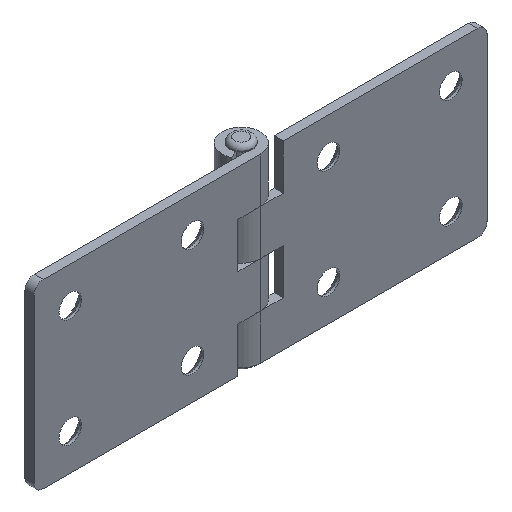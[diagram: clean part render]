
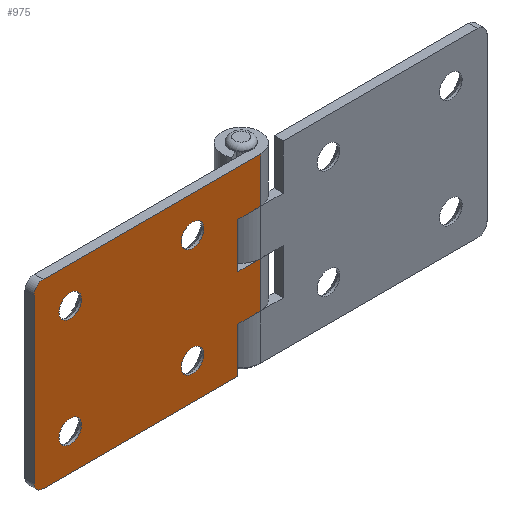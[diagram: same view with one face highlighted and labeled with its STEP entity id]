
A CAD part, isometric view. The second image highlights one B-rep face of the part: STEP entity #975.
In plain terms, the highlighted planar face has unit normal (0, -1, 0).
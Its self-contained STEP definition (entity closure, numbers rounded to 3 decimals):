
#56=FACE_BOUND('',#172,.T.);
#57=FACE_BOUND('',#173,.T.);
#58=FACE_BOUND('',#174,.T.);
#59=FACE_BOUND('',#175,.T.);
#106=FACE_OUTER_BOUND('',#171,.T.);
#171=EDGE_LOOP('',(#756,#757,#758,#759,#760,#761,#762,#763,#764,#765,#766,
#767));
#172=EDGE_LOOP('',(#768));
#173=EDGE_LOOP('',(#769));
#174=EDGE_LOOP('',(#770));
#175=EDGE_LOOP('',(#771));
#252=LINE('',#1456,#324);
#257=LINE('',#1468,#329);
#261=LINE('',#1477,#333);
#265=LINE('',#1494,#337);
#268=LINE('',#1498,#340);
#279=LINE('',#1535,#351);
#282=LINE('',#1543,#354);
#285=LINE('',#1551,#357);
#286=LINE('',#1553,#358);
#287=LINE('',#1554,#359);
#324=VECTOR('',#1148,5.);
#329=VECTOR('',#1157,10.);
#333=VECTOR('',#1163,5.);
#337=VECTOR('',#1177,5.);
#340=VECTOR('',#1182,10.);
#351=VECTOR('',#1221,10.);
#354=VECTOR('',#1230,43.);
#357=VECTOR('',#1239,48.);
#358=VECTOR('',#1242,10.);
#359=VECTOR('',#1243,36.);
#410=CIRCLE('',#1051,2.);
#411=CIRCLE('',#1054,2.);
#412=CIRCLE('',#1057,2.5);
#413=CIRCLE('',#1058,2.5);
#414=CIRCLE('',#1059,2.5);
#415=CIRCLE('',#1060,2.5);
#452=VERTEX_POINT('',#1452);
#454=VERTEX_POINT('',#1455);
#459=VERTEX_POINT('',#1467);
#462=VERTEX_POINT('',#1474);
#463=VERTEX_POINT('',#1476);
#470=VERTEX_POINT('',#1491);
#471=VERTEX_POINT('',#1493);
#483=VERTEX_POINT('',#1533);
#484=VERTEX_POINT('',#1537);
#485=VERTEX_POINT('',#1539);
#486=VERTEX_POINT('',#1545);
#487=VERTEX_POINT('',#1546);
#488=VERTEX_POINT('',#1555);
#489=VERTEX_POINT('',#1557);
#490=VERTEX_POINT('',#1559);
#491=VERTEX_POINT('',#1561);
#549=EDGE_CURVE('',#454,#452,#252,.T.);
#555=EDGE_CURVE('',#459,#454,#257,.T.);
#559=EDGE_CURVE('',#463,#462,#261,.T.);
#567=EDGE_CURVE('',#471,#470,#265,.T.);
#570=EDGE_CURVE('',#462,#471,#268,.T.);
#589=EDGE_CURVE('',#470,#483,#279,.T.);
#591=EDGE_CURVE('',#484,#485,#410,.T.);
#593=EDGE_CURVE('',#459,#484,#282,.T.);
#594=EDGE_CURVE('',#486,#487,#411,.T.);
#597=EDGE_CURVE('',#487,#483,#285,.T.);
#598=EDGE_CURVE('',#452,#463,#286,.T.);
#599=EDGE_CURVE('',#485,#486,#287,.T.);
#600=EDGE_CURVE('',#488,#488,#412,.T.);
#601=EDGE_CURVE('',#489,#489,#413,.T.);
#602=EDGE_CURVE('',#490,#490,#414,.T.);
#603=EDGE_CURVE('',#491,#491,#415,.T.);
#756=ORIENTED_EDGE('',*,*,#549,.T.);
#757=ORIENTED_EDGE('',*,*,#598,.T.);
#758=ORIENTED_EDGE('',*,*,#559,.T.);
#759=ORIENTED_EDGE('',*,*,#570,.T.);
#760=ORIENTED_EDGE('',*,*,#567,.T.);
#761=ORIENTED_EDGE('',*,*,#589,.T.);
#762=ORIENTED_EDGE('',*,*,#597,.F.);
#763=ORIENTED_EDGE('',*,*,#594,.F.);
#764=ORIENTED_EDGE('',*,*,#599,.F.);
#765=ORIENTED_EDGE('',*,*,#591,.F.);
#766=ORIENTED_EDGE('',*,*,#593,.F.);
#767=ORIENTED_EDGE('',*,*,#555,.T.);
#768=ORIENTED_EDGE('',*,*,#600,.T.);
#769=ORIENTED_EDGE('',*,*,#601,.T.);
#770=ORIENTED_EDGE('',*,*,#602,.T.);
#771=ORIENTED_EDGE('',*,*,#603,.T.);
#942=PLANE('',#1056);
#975=ADVANCED_FACE('',(#106,#56,#57,#58,#59),#942,.T.);
#1051=AXIS2_PLACEMENT_3D('',#1540,#1225,#1226);
#1054=AXIS2_PLACEMENT_3D('',#1547,#1233,#1234);
#1056=AXIS2_PLACEMENT_3D('',#1552,#1240,#1241);
#1057=AXIS2_PLACEMENT_3D('',#1556,#1244,#1245);
#1058=AXIS2_PLACEMENT_3D('',#1558,#1246,#1247);
#1059=AXIS2_PLACEMENT_3D('',#1560,#1248,#1249);
#1060=AXIS2_PLACEMENT_3D('',#1562,#1250,#1251);
#1148=DIRECTION('',(1.,0.,0.));
#1157=DIRECTION('',(0.,0.,1.));
#1163=DIRECTION('',(-1.,0.,0.));
#1177=DIRECTION('',(1.,0.,0.));
#1182=DIRECTION('',(0.,0.,1.));
#1221=DIRECTION('',(0.,0.,1.));
#1225=DIRECTION('center_axis',(0.,1.,0.));
#1226=DIRECTION('ref_axis',(-0.707,0.,-0.707));
#1230=DIRECTION('',(-1.,0.,0.));
#1233=DIRECTION('center_axis',(0.,1.,0.));
#1234=DIRECTION('ref_axis',(-0.707,0.,0.707));
#1239=DIRECTION('',(1.,0.,0.));
#1240=DIRECTION('center_axis',(0.,-1.,0.));
#1241=DIRECTION('ref_axis',(1.,0.,0.));
#1242=DIRECTION('',(0.,0.,1.));
#1243=DIRECTION('',(0.,0.,1.));
#1244=DIRECTION('center_axis',(0.,1.,0.));
#1245=DIRECTION('ref_axis',(1.,0.,0.));
#1246=DIRECTION('center_axis',(0.,1.,0.));
#1247=DIRECTION('ref_axis',(1.,0.,0.));
#1248=DIRECTION('center_axis',(0.,1.,0.));
#1249=DIRECTION('ref_axis',(1.,0.,0.));
#1250=DIRECTION('center_axis',(0.,1.,0.));
#1251=DIRECTION('ref_axis',(1.,0.,0.));
#1452=CARTESIAN_POINT('',(0.,0.,-10.));
#1455=CARTESIAN_POINT('',(-5.,0.,-10.));
#1456=CARTESIAN_POINT('',(-27.5,0.,-10.));
#1467=CARTESIAN_POINT('',(-5.,0.,-20.));
#1468=CARTESIAN_POINT('',(-5.,0.,-10.));
#1474=CARTESIAN_POINT('',(-5.,0.,0.));
#1476=CARTESIAN_POINT('',(0.,0.,0.));
#1477=CARTESIAN_POINT('',(-22.5,0.,0.));
#1491=CARTESIAN_POINT('',(0.,0.,10.));
#1493=CARTESIAN_POINT('',(-5.,0.,10.));
#1494=CARTESIAN_POINT('',(-27.5,0.,10.));
#1498=CARTESIAN_POINT('',(-5.,0.,0.));
#1533=CARTESIAN_POINT('',(0.,0.,20.));
#1535=CARTESIAN_POINT('',(0.,0.,0.));
#1537=CARTESIAN_POINT('',(-48.,0.,-20.));
#1539=CARTESIAN_POINT('',(-50.,0.,-18.));
#1540=CARTESIAN_POINT('Origin',(-48.,0.,-18.));
#1543=CARTESIAN_POINT('',(-50.,0.,-20.));
#1545=CARTESIAN_POINT('',(-50.,0.,18.));
#1546=CARTESIAN_POINT('',(-48.,0.,20.));
#1547=CARTESIAN_POINT('Origin',(-48.,0.,18.));
#1551=CARTESIAN_POINT('',(-50.,0.,20.));
#1552=CARTESIAN_POINT('Origin',(-50.,0.,0.));
#1553=CARTESIAN_POINT('',(0.,0.,0.));
#1554=CARTESIAN_POINT('',(-50.,0.,0.));
#1555=CARTESIAN_POINT('',(-44.5,0.,12.));
#1556=CARTESIAN_POINT('Origin',(-42.,0.,12.));
#1557=CARTESIAN_POINT('',(-17.5,0.,-12.));
#1558=CARTESIAN_POINT('Origin',(-15.,0.,-12.));
#1559=CARTESIAN_POINT('',(-44.5,0.,-12.));
#1560=CARTESIAN_POINT('Origin',(-42.,0.,-12.));
#1561=CARTESIAN_POINT('',(-17.5,0.,12.));
#1562=CARTESIAN_POINT('Origin',(-15.,0.,12.));
